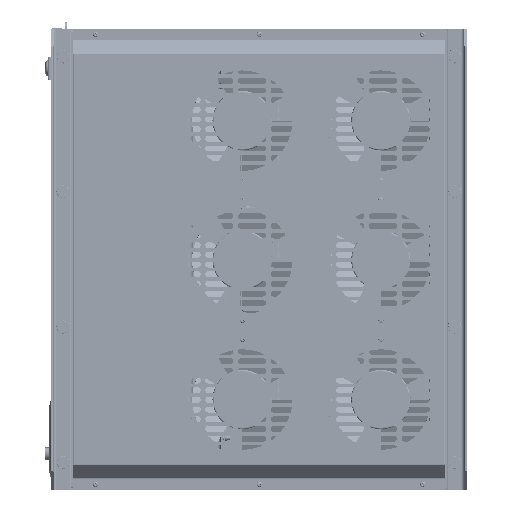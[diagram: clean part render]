
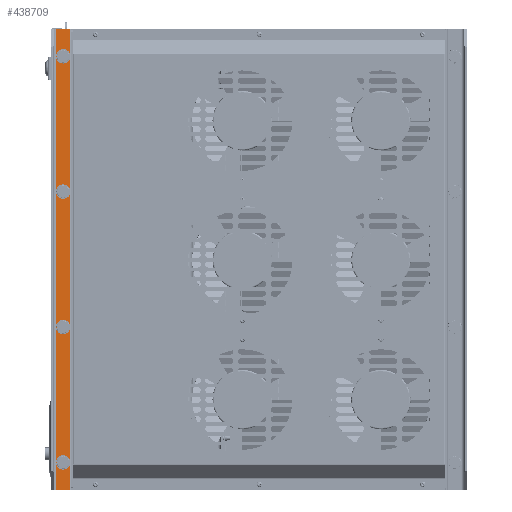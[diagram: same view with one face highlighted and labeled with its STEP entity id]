
A CAD part, left-side view. The second image highlights one B-rep face of the part: STEP entity #438709.
In plain terms, the highlighted planar face has unit normal (-1, 0, 0).
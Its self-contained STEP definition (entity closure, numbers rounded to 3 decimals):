
#438006=DIRECTION('',(0.,0.,1.));
#438007=VECTOR('',#438006,18.6);
#438008=CARTESIAN_POINT('',(18.5,-310.,-20.));
#438009=LINE('',#438008,#438007);
#438112=DIRECTION('',(0.,0.,1.));
#438113=VECTOR('',#438112,18.6);
#438114=CARTESIAN_POINT('',(18.5,310.,-20.));
#438115=LINE('',#438114,#438113);
#438227=DIRECTION('',(0.,1.,0.));
#438228=VECTOR('',#438227,620.);
#438229=CARTESIAN_POINT('',(18.5,-310.,-1.4));
#438230=LINE('',#438229,#438228);
#438231=DIRECTION('',(0.,1.,0.));
#438232=VECTOR('',#438231,620.);
#438233=CARTESIAN_POINT('',(18.5,-310.,-20.));
#438234=LINE('',#438233,#438232);
#438235=CARTESIAN_POINT('',(18.5,273.,-11.));
#438236=DIRECTION('',(-1.,0.,0.));
#438237=DIRECTION('',(0.,0.,1.));
#438238=AXIS2_PLACEMENT_3D('',#438235,#438236,#438237);
#438240=CARTESIAN_POINT('',(18.5,273.,-11.));
#438241=DIRECTION('',(-1.,0.,0.));
#438242=DIRECTION('',(0.,0.,-1.));
#438243=AXIS2_PLACEMENT_3D('',#438240,#438241,#438242);
#438245=CARTESIAN_POINT('',(18.5,91.,-11.));
#438246=DIRECTION('',(-1.,0.,0.));
#438247=DIRECTION('',(0.,0.,1.));
#438248=AXIS2_PLACEMENT_3D('',#438245,#438246,#438247);
#438250=CARTESIAN_POINT('',(18.5,91.,-11.));
#438251=DIRECTION('',(-1.,0.,0.));
#438252=DIRECTION('',(0.,0.,-1.));
#438253=AXIS2_PLACEMENT_3D('',#438250,#438251,#438252);
#438255=CARTESIAN_POINT('',(18.5,-273.,-11.));
#438256=DIRECTION('',(-1.,0.,0.));
#438257=DIRECTION('',(0.,0.,1.));
#438258=AXIS2_PLACEMENT_3D('',#438255,#438256,#438257);
#438260=CARTESIAN_POINT('',(18.5,-273.,-11.));
#438261=DIRECTION('',(-1.,0.,0.));
#438262=DIRECTION('',(0.,0.,-1.));
#438263=AXIS2_PLACEMENT_3D('',#438260,#438261,#438262);
#438265=CARTESIAN_POINT('',(18.5,-91.,-11.));
#438266=DIRECTION('',(-1.,0.,0.));
#438267=DIRECTION('',(0.,0.,1.));
#438268=AXIS2_PLACEMENT_3D('',#438265,#438266,#438267);
#438270=CARTESIAN_POINT('',(18.5,-91.,-11.));
#438271=DIRECTION('',(-1.,0.,0.));
#438272=DIRECTION('',(0.,0.,-1.));
#438273=AXIS2_PLACEMENT_3D('',#438270,#438271,#438272);
#438348=CARTESIAN_POINT('',(18.5,-310.,-20.));
#438350=VERTEX_POINT('',#438348);
#438351=CARTESIAN_POINT('',(18.5,-310.,-1.4));
#438352=VERTEX_POINT('',#438351);
#438354=CARTESIAN_POINT('',(18.5,310.,-20.));
#438356=VERTEX_POINT('',#438354);
#438357=CARTESIAN_POINT('',(18.5,310.,-1.4));
#438358=VERTEX_POINT('',#438357);
#438375=CARTESIAN_POINT('',(18.5,273.,-5.));
#438376=CARTESIAN_POINT('',(18.5,273.,-17.));
#438377=VERTEX_POINT('',#438375);
#438378=VERTEX_POINT('',#438376);
#438379=CARTESIAN_POINT('',(18.5,91.,-5.));
#438380=CARTESIAN_POINT('',(18.5,91.,-17.));
#438381=VERTEX_POINT('',#438379);
#438382=VERTEX_POINT('',#438380);
#438383=CARTESIAN_POINT('',(18.5,-273.,-5.));
#438384=CARTESIAN_POINT('',(18.5,-273.,-17.));
#438385=VERTEX_POINT('',#438383);
#438386=VERTEX_POINT('',#438384);
#438387=CARTESIAN_POINT('',(18.5,-91.,-5.));
#438388=CARTESIAN_POINT('',(18.5,-91.,-17.));
#438389=VERTEX_POINT('',#438387);
#438390=VERTEX_POINT('',#438388);
#438673=CARTESIAN_POINT('',(18.5,-310.,-20.));
#438674=DIRECTION('',(-1.,0.,0.));
#438675=DIRECTION('',(0.,0.,1.));
#438676=AXIS2_PLACEMENT_3D('',#438673,#438674,#438675);
#438677=PLANE('',#438676);
#438678=ORIENTED_EDGE('',*,*,#438446,.F.);
#438680=ORIENTED_EDGE('',*,*,#438679,.T.);
#438681=ORIENTED_EDGE('',*,*,#438556,.T.);
#438682=ORIENTED_EDGE('',*,*,#438666,.F.);
#438683=EDGE_LOOP('',(#438678,#438680,#438681,#438682));
#438684=FACE_OUTER_BOUND('',#438683,.F.);
#438686=ORIENTED_EDGE('',*,*,#438685,.T.);
#438688=ORIENTED_EDGE('',*,*,#438687,.T.);
#438689=EDGE_LOOP('',(#438686,#438688));
#438690=FACE_BOUND('',#438689,.F.);
#438692=ORIENTED_EDGE('',*,*,#438691,.T.);
#438694=ORIENTED_EDGE('',*,*,#438693,.T.);
#438695=EDGE_LOOP('',(#438692,#438694));
#438696=FACE_BOUND('',#438695,.F.);
#438698=ORIENTED_EDGE('',*,*,#438697,.T.);
#438700=ORIENTED_EDGE('',*,*,#438699,.T.);
#438701=EDGE_LOOP('',(#438698,#438700));
#438702=FACE_BOUND('',#438701,.F.);
#438704=ORIENTED_EDGE('',*,*,#438703,.T.);
#438706=ORIENTED_EDGE('',*,*,#438705,.T.);
#438707=EDGE_LOOP('',(#438704,#438706));
#438708=FACE_BOUND('',#438707,.F.);
#438709=ADVANCED_FACE('',(#438684,#438690,#438696,#438702,#438708),#438677,.T.);
#438239=CIRCLE('',#438238,6.);
#438244=CIRCLE('',#438243,6.);
#438249=CIRCLE('',#438248,6.);
#438254=CIRCLE('',#438253,6.);
#438259=CIRCLE('',#438258,6.);
#438264=CIRCLE('',#438263,6.);
#438269=CIRCLE('',#438268,6.);
#438274=CIRCLE('',#438273,6.);
#438446=EDGE_CURVE('',#438350,#438352,#438009,.T.);
#438556=EDGE_CURVE('',#438356,#438358,#438115,.T.);
#438666=EDGE_CURVE('',#438352,#438358,#438230,.T.);
#438679=EDGE_CURVE('',#438350,#438356,#438234,.T.);
#438685=EDGE_CURVE('',#438377,#438378,#438239,.T.);
#438687=EDGE_CURVE('',#438378,#438377,#438244,.T.);
#438691=EDGE_CURVE('',#438381,#438382,#438249,.T.);
#438693=EDGE_CURVE('',#438382,#438381,#438254,.T.);
#438697=EDGE_CURVE('',#438385,#438386,#438259,.T.);
#438699=EDGE_CURVE('',#438386,#438385,#438264,.T.);
#438703=EDGE_CURVE('',#438389,#438390,#438269,.T.);
#438705=EDGE_CURVE('',#438390,#438389,#438274,.T.);
